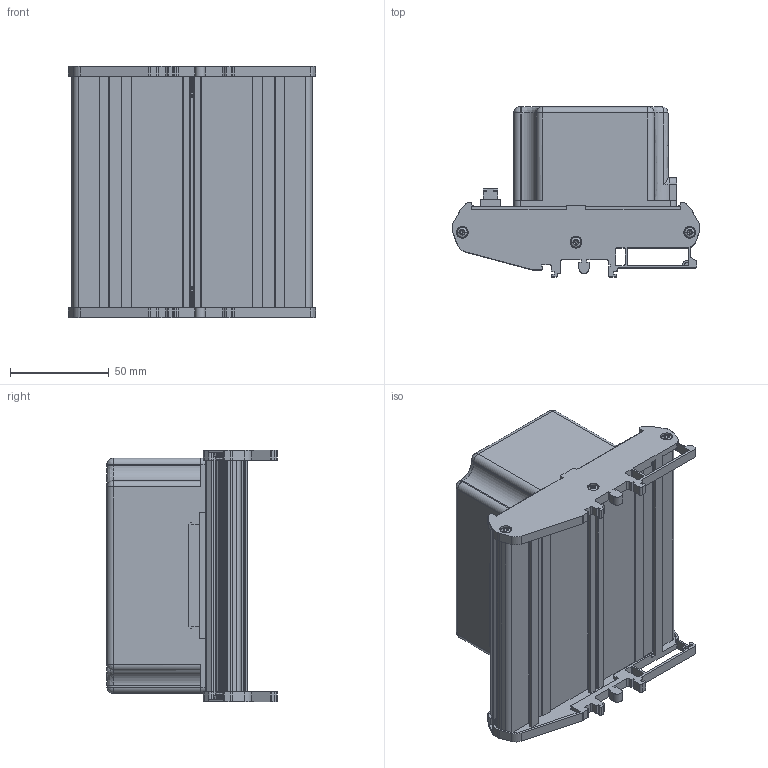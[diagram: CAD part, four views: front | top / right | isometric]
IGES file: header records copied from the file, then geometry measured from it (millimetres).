
Start section:  PTC IGES file: cd_tbx-68s.igs
Global section: file name: cd_tbx-68s.igs; native system: Pro/ENGINEER by Parametric Technology Corporation; preprocessor: 2006080; author: scarrasc; organization: Unknown; date: 080318.124317; units: inch
Bounding box: 125.4 x 86.37 x 127.5 mm (x, y, z)
Surface area: 147349.8 mm2 (no closed solid volume)
Topology: 0 solids, 0 shells, 1601 faces, 8620 edges, 8596 vertices
Faces by surface type: revolution 825, bspline 776
